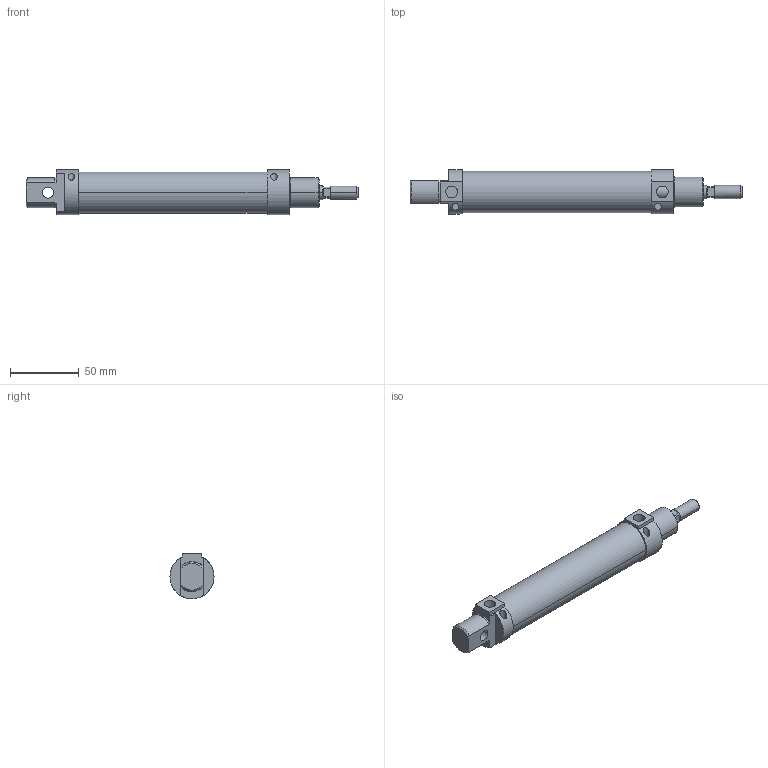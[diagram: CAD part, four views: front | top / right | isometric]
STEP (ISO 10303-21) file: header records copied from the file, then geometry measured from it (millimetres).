
FILE_DESCRIPTION(('CATIA V5 STEP Exchange'),'2;1');
FILE_NAME('D:\stp file for catalog\PSN\25\PSN-25-10-100.stp','2018-04-29T05:03:02+00:00',('none'),('none'),'CATIA Version 5-6 Release 2016','CATIA V5 STEP AP203','none');
FILE_SCHEMA(('CONFIG_CONTROL_DESIGN'));
Length unit declared in the file: millimetre
Products named in the file (1): PSN-25-10-100-00
Assembly tree (2 placements, depth 2):
  PSN-25-10-100-00
    #57
    #2060
Bounding box: 241 x 32 x 33 mm (x, y, z)
Volume: 87931.5 mm3; surface area: 45436.7 mm2
Topology: 2 solids, 2 shells, 104 faces, 246 edges, 160 vertices
Faces by surface type: plane 52, cylinder 46, cone 6
Entity records: 2883 total; most frequent: CARTESIAN_POINT 631, ORIENTED_EDGE 492, DIRECTION 342, EDGE_CURVE 246, AXIS2_PLACEMENT_3D 169, VERTEX_POINT 160, EDGE_LOOP 122, VECTOR 116
